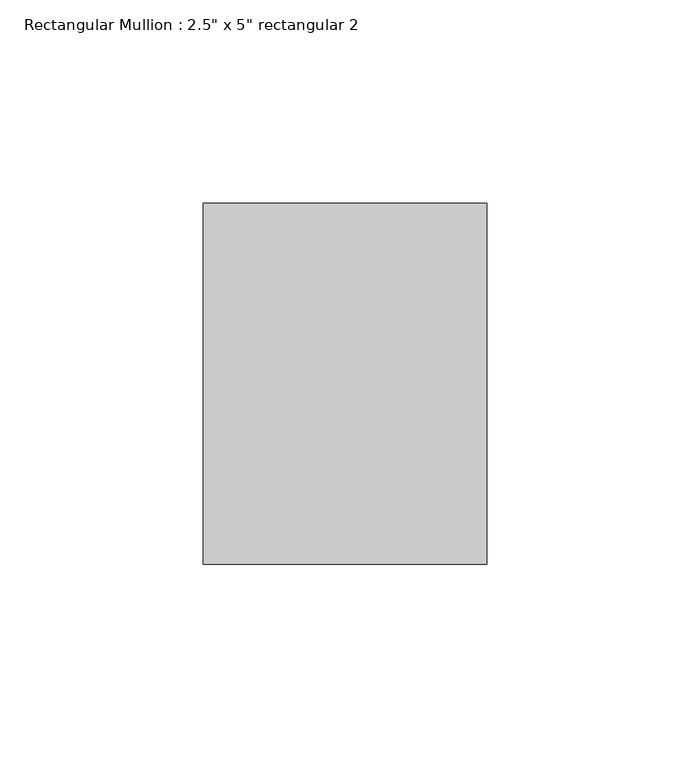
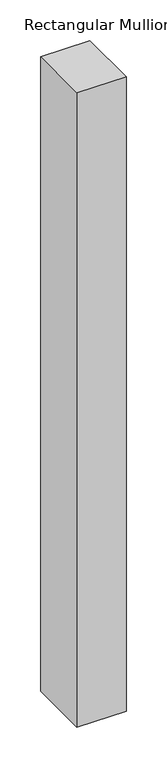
"""IFC4 building model written with IfcOpenShell, lengths in millimetres: member geometry."""

import ifcopenshell
import ifcopenshell.guid

model = None  # the IFC model being written
_history = None  # IfcOwnerHistory: only IFC2X3 demands one
_inside = {}  # id of a spatial element -> (the spatial element, [elements in it])
_under = {}  # id of a project, library or spatial element -> (it, [spatial elements below it])
_declared = {}  # id of a project -> (the project, [libraries it declares])
_typed = {}  # id of a type object -> (the type object, [elements of that type])
_made_of = {}  # id of a material, layer set ... -> (it, [elements and type objects made of it])


def new_model(schema):
    """Start an empty IFC model of exactly this schema.

    Asked for "IFC4X3", IfcOpenShell would pick the latest addendum, in which some entities
    have other attributes; the version numbers below select the first issue.
    IFC2X3 requires an IfcOwnerHistory on every rooted entity: one is made here for all.
    """
    global model, _history
    if schema == "IFC4X3":
        model = ifcopenshell.file(schema_version=(4, 3, 0, 0))
    else:
        model = ifcopenshell.file(schema=schema)
    _inside.clear()
    _under.clear()
    _declared.clear()
    _typed.clear()
    _made_of.clear()
    _history = None
    if model.schema == "IFC2X3":
        org = make("IfcOrganization", Name="unknown")
        user = make(
            "IfcPersonAndOrganization",
            ThePerson=make("IfcPerson", FamilyName="unknown"),
            TheOrganization=org,
        )
        app = make(
            "IfcApplication",
            ApplicationDeveloper=org,
            Version="unknown",
            ApplicationFullName="unknown",
            ApplicationIdentifier="unknown",
        )
        _history = make(
            "IfcOwnerHistory",
            OwningUser=user,
            OwningApplication=app,
            ChangeAction="ADDED",
            CreationDate=0,
        )
    return model


def make(cls, **values):
    """One entity of the class cls with the attributes given. An attribute that is None is left unset."""
    return model.create_entity(
        cls, **{name: value for name, value in values.items() if value is not None}
    )


def rooted(cls, **values):
    """An entity with a GlobalId (a new one), such as an element, a storey or a relation."""
    return make(cls, GlobalId=ifcopenshell.guid.new(), OwnerHistory=_history, **values)


def si_unit(unit_type, name, prefix=None):
    """IfcSIUnit, for example si_unit("LENGTHUNIT", "METRE", prefix="MILLI")."""
    return make("IfcSIUnit", UnitType=unit_type, Prefix=prefix, Name=name)


def assignment(units):
    """IfcUnitAssignment: the units of a project."""
    return None if units is None else make("IfcUnitAssignment", Units=units)


def point(xyz):
    """IfcCartesianPoint."""
    return None if xyz is None else make("IfcCartesianPoint", Coordinates=xyz)


def direction(xyz):
    """IfcDirection."""
    return None if xyz is None else make("IfcDirection", DirectionRatios=xyz)


def frame(location, z_axis=None, x_axis=None):
    """IfcAxis2Placement3D, a coordinate frame: its origin and axes. An axis left out is left unset."""
    return make(
        "IfcAxis2Placement3D",
        Location=point(location),
        Axis=direction(z_axis),
        RefDirection=direction(x_axis),
    )


def origin():
    """The frame at (0, 0, 0) with its axes left unset."""
    return frame((0.0, 0.0, 0.0))


def place(relative_to, where):
    """IfcLocalPlacement: puts the frame where relative to a parent placement (None: the world)."""
    return make(
        "IfcLocalPlacement", PlacementRelTo=relative_to, RelativePlacement=where
    )


def context(
    kind, dimensions, precision=None, world=None, true_north=None, identifier=None
):
    """IfcGeometricRepresentationContext, for example the 3D "Model" context."""
    return make(
        "IfcGeometricRepresentationContext",
        ContextIdentifier=identifier,
        ContextType=kind,
        CoordinateSpaceDimension=dimensions,
        Precision=precision,
        WorldCoordinateSystem=world,
        TrueNorth=true_north,
    )


def project(units=None, contexts=None):
    """IfcProject with its units and contexts."""
    return rooted(
        "IfcProject",
        Name="project",
        RepresentationContexts=contexts,
        UnitsInContext=assignment(units),
    )


def spatial(cls, under=None, at=None, **own):
    """A site, building, storey or space (cls), placed at a placement, below another one or the project."""
    s = rooted(cls, ObjectPlacement=at, **own)
    if under is not None:
        _under.setdefault(under.id(), (under, []))[1].append(s)
    return s


def polyline(points):
    """IfcPolyline through the points."""
    return make("IfcPolyline", Points=[point(p) for p in points])


def outline(outer, holes=None, kind="AREA"):
    """IfcArbitraryClosedProfileDef: a profile drawn as a closed curve; with holes, ...WithVoids."""
    if holes is None:
        return make("IfcArbitraryClosedProfileDef", ProfileType=kind, OuterCurve=outer)
    return make(
        "IfcArbitraryProfileDefWithVoids",
        ProfileType=kind,
        OuterCurve=outer,
        InnerCurves=holes,
    )


def extrude(swept, where, along, depth):
    """IfcExtrudedAreaSolid: the profile swept, set in the frame where, extruded along a direction by depth."""
    return make(
        "IfcExtrudedAreaSolid",
        SweptArea=swept,
        Position=where,
        ExtrudedDirection=direction(along),
        Depth=depth,
    )


def shape(context_of_items, identifier, shape_type, items):
    """IfcShapeRepresentation: the items that make up one representation, for example the "Body"."""
    return make(
        "IfcShapeRepresentation",
        ContextOfItems=context_of_items,
        RepresentationIdentifier=identifier,
        RepresentationType=shape_type,
        Items=items,
    )


def source(mapping_origin, context_of_items, identifier, shape_type, items):
    """IfcRepresentationMap: a shape defined once, which mapped items show again and again."""
    return make(
        "IfcRepresentationMap",
        MappingOrigin=mapping_origin,
        MappedRepresentation=shape(context_of_items, identifier, shape_type, items),
    )


def transform(
    local_origin,
    x_axis=None,
    y_axis=None,
    z_axis=None,
    scale=None,
    scale2=None,
    scale3=None,
    uniform=True,
):
    """IfcCartesianTransformationOperator3D, or its non-uniform kind. x_axis, y_axis, z_axis: its Axis1, 2, 3."""
    if uniform:
        return make(
            "IfcCartesianTransformationOperator3D",
            Axis1=direction(x_axis),
            Axis2=direction(y_axis),
            LocalOrigin=point(local_origin),
            Scale=scale,
            Axis3=direction(z_axis),
        )
    return make(
        "IfcCartesianTransformationOperator3DnonUniform",
        Axis1=direction(x_axis),
        Axis2=direction(y_axis),
        LocalOrigin=point(local_origin),
        Scale=scale,
        Axis3=direction(z_axis),
        Scale2=scale2,
        Scale3=scale3,
    )


def mapped(mapping_source, mapping_target):
    """IfcMappedItem: shows the shape of a source again, moved by a transform."""
    return make(
        "IfcMappedItem", MappingSource=mapping_source, MappingTarget=mapping_target
    )


def made_of(thing, what):
    """Note that an element or type object is made of a material, layer set ...; save() writes the relation."""
    if what is not None:
        _made_of.setdefault(what.id(), (what, []))[1].append(thing)
    return thing


def element(
    cls,
    number,
    at=None,
    inside=None,
    cuts=None,
    type_object=None,
    material=None,
    context=None,
    identifier="Body",
    shape_type=None,
    held_by="IfcProductDefinitionShape",
    body=None,
    shapes=None,
    **own,
):
    """One element of the class cls, such as IfcWall. Its Tag is "e" and its number.

    at: its placement. inside: the storey or other place that contains it. cuts: it is an
    opening in that element (IfcRelVoidsElement). A single representation is given by context,
    identifier, shape_type and body (its items); several are given by shapes. held_by: the class
    of the entity that holds the representations. save() writes the other relations.
    """
    e = rooted(cls, Tag="e%d" % number, ObjectPlacement=at, **own)
    if body is not None:
        shapes = [shape(context, identifier, shape_type, body)]
    if shapes is not None:
        e.Representation = make(held_by, Representations=shapes)
    if inside is not None:
        _inside.setdefault(inside.id(), (inside, []))[1].append(e)
    if cuts is not None:
        rooted(
            "IfcRelVoidsElement", RelatingBuildingElement=cuts, RelatedOpeningElement=e
        )
    if type_object is not None:
        _typed.setdefault(type_object.id(), (type_object, []))[1].append(e)
    return made_of(e, material)


def aggregate(whole, parts):
    """IfcRelAggregates: a whole, such as a stair, and the parts it consists of."""
    return rooted("IfcRelAggregates", RelatingObject=whole, RelatedObjects=parts)


def save(model, path):
    """Write the relations noted so far, then the file.

    IfcRelAggregates (storeys below a building ...), IfcRelContainedInSpatialStructure (elements
    in a storey), IfcRelDefinesByType, IfcRelAssociatesMaterial and IfcRelDeclares: one each for
    every whole, place, type object, material and project.
    """
    for whole, parts in _under.values():
        aggregate(whole, parts)
    for where, things in _inside.values():
        rooted(
            "IfcRelContainedInSpatialStructure",
            RelatedElements=things,
            RelatingStructure=where,
        )
    for kind, things in _typed.values():
        rooted("IfcRelDefinesByType", RelatedObjects=things, RelatingType=kind)
    for what, things in _made_of.values():
        rooted("IfcRelAssociatesMaterial", RelatedObjects=things, RelatingMaterial=what)
    for by, libraries in _declared.values():
        rooted("IfcRelDeclares", RelatingContext=by, RelatedDefinitions=libraries)
    model.write(path)


def member_2987343d(model_context):
    return source(origin(), model_context, "Body", "SweptSolid", [
        extrude(outline(polyline([(0.0, 44.45), (0.0, -44.45), (-69.85, -44.45), (-69.85, 44.45), (0.0, 44.45)])), frame((0.0, 0.0, -952.2749378), z_axis=(0.0, 0.0, 1.0), x_axis=(1.0, 0.0, 0.0)), (0.0, 0.0, 1.0), 952.2749378),
    ])


if __name__ == "__main__":
    model = new_model("IFC4")
    model_context = context("Model", 3, world=origin())
    ifc_project = project(units=[si_unit("LENGTHUNIT", "METRE", prefix="MILLI")], contexts=[model_context])
    site = spatial("IfcSite", under=ifc_project)
    building = spatial("IfcBuilding", under=site)
    placement = place(None, origin())
    member_shape = member_2987343d(model_context)
    element("IfcMember", 1, ObjectType="Rectangular Mullion : 2.5\" x 5\" rectangular 2", at=placement, inside=building, context=model_context, shape_type="MappedRepresentation", body=[
        mapped(member_shape, transform((0.0, 0.0, 0.0), x_axis=(1.0, 0.0, 0.0), y_axis=(0.0, 1.0, 0.0), z_axis=(0.0, 0.0, 1.0))),
    ])
    save(model, "model.ifc")
